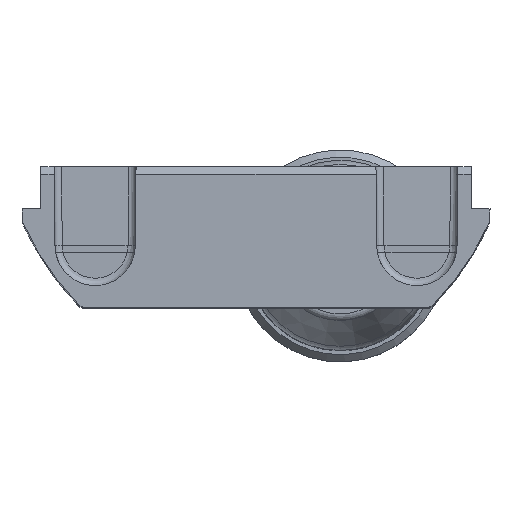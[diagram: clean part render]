
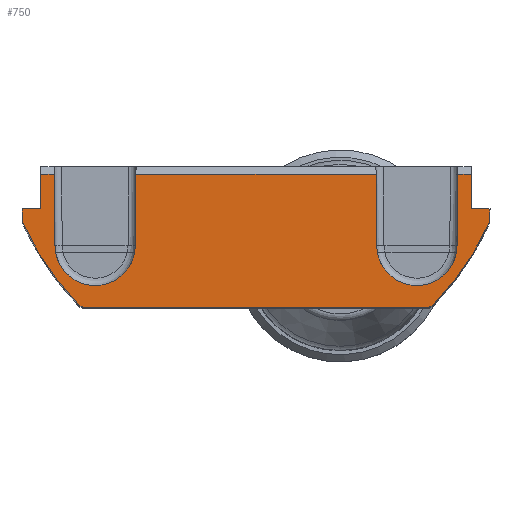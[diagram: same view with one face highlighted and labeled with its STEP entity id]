
A CAD part, top view. The second image highlights one B-rep face of the part: STEP entity #750.
In plain terms, the highlighted planar face has unit normal (0, 0, 1).
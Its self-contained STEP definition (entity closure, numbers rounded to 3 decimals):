
#750=ADVANCED_FACE('',(#1368),#1083,.T.);
#1083=PLANE('',#7497);
#1368=FACE_OUTER_BOUND('',#1736,.T.);
#1736=EDGE_LOOP('',(#3413,#3414,#3415,#3416,#3417,#3418,#3419,#3420,#3421,
#3422,#3423,#3424,#3425,#3426,#3427,#3428,#3429,#3430,#3431,#3432,#3433,
#3434));
#2053=CIRCLE('',#7286,0.5);
#2054=CIRCLE('',#7290,0.5);
#2055=CIRCLE('',#7294,0.5);
#2056=CIRCLE('',#7296,0.5);
#2057=CIRCLE('',#7318,2.75);
#2058=CIRCLE('',#7321,2.75);
#2103=CIRCLE('',#7490,20.);
#2104=CIRCLE('',#7494,20.);
#3413=ORIENTED_EDGE('',*,*,#5653,.F.);
#3414=ORIENTED_EDGE('',*,*,#5249,.T.);
#3415=ORIENTED_EDGE('',*,*,#5373,.F.);
#3416=ORIENTED_EDGE('',*,*,#5379,.F.);
#3417=ORIENTED_EDGE('',*,*,#5377,.F.);
#3418=ORIENTED_EDGE('',*,*,#5245,.T.);
#3419=ORIENTED_EDGE('',*,*,#5387,.T.);
#3420=ORIENTED_EDGE('',*,*,#5384,.T.);
#3421=ORIENTED_EDGE('',*,*,#5381,.T.);
#3422=ORIENTED_EDGE('',*,*,#5241,.T.);
#3423=ORIENTED_EDGE('',*,*,#5654,.F.);
#3424=ORIENTED_EDGE('',*,*,#5655,.F.);
#3425=ORIENTED_EDGE('',*,*,#5366,.F.);
#3426=ORIENTED_EDGE('',*,*,#5311,.T.);
#3427=ORIENTED_EDGE('',*,*,#5647,.T.);
#3428=ORIENTED_EDGE('',*,*,#5318,.T.);
#3429=ORIENTED_EDGE('',*,*,#5652,.F.);
#3430=ORIENTED_EDGE('',*,*,#5324,.T.);
#3431=ORIENTED_EDGE('',*,*,#5650,.T.);
#3432=ORIENTED_EDGE('',*,*,#5325,.T.);
#3433=ORIENTED_EDGE('',*,*,#5368,.F.);
#3434=ORIENTED_EDGE('',*,*,#5656,.F.);
#4519=VERTEX_POINT('',#10437);
#4521=VERTEX_POINT('',#10441);
#4523=VERTEX_POINT('',#10446);
#4525=VERTEX_POINT('',#10450);
#4527=VERTEX_POINT('',#10455);
#4529=VERTEX_POINT('',#10459);
#4570=VERTEX_POINT('',#10887);
#4571=VERTEX_POINT('',#10889);
#4574=VERTEX_POINT('',#10899);
#4575=VERTEX_POINT('',#10901);
#4578=VERTEX_POINT('',#10911);
#4579=VERTEX_POINT('',#10913);
#4580=VERTEX_POINT('',#10917);
#4581=VERTEX_POINT('',#10918);
#4617=VERTEX_POINT('',#11158);
#4618=VERTEX_POINT('',#11162);
#4620=VERTEX_POINT('',#11171);
#4621=VERTEX_POINT('',#11177);
#4622=VERTEX_POINT('',#11184);
#4623=VERTEX_POINT('',#11188);
#4775=VERTEX_POINT('',#11790);
#4776=VERTEX_POINT('',#11792);
#5241=EDGE_CURVE('',#4519,#4521,#6211,.T.);
#5245=EDGE_CURVE('',#4523,#4525,#6215,.T.);
#5249=EDGE_CURVE('',#4527,#4529,#6219,.T.);
#5311=EDGE_CURVE('',#4571,#4570,#2053,.T.);
#5318=EDGE_CURVE('',#4574,#4575,#2054,.T.);
#5324=EDGE_CURVE('',#4578,#4579,#2055,.T.);
#5325=EDGE_CURVE('',#4580,#4581,#2056,.T.);
#5366=EDGE_CURVE('',#4571,#4617,#6261,.T.);
#5368=EDGE_CURVE('',#4618,#4581,#6263,.T.);
#5373=EDGE_CURVE('',#4620,#4529,#6268,.T.);
#5377=EDGE_CURVE('',#4523,#4621,#6272,.T.);
#5379=EDGE_CURVE('',#4621,#4620,#2057,.T.);
#5381=EDGE_CURVE('',#4622,#4519,#6275,.T.);
#5384=EDGE_CURVE('',#4623,#4622,#2058,.T.);
#5387=EDGE_CURVE('',#4525,#4623,#6280,.T.);
#5647=EDGE_CURVE('',#4570,#4574,#2103,.T.);
#5650=EDGE_CURVE('',#4579,#4580,#2104,.T.);
#5652=EDGE_CURVE('',#4578,#4575,#6460,.T.);
#5653=EDGE_CURVE('',#4527,#4775,#6461,.T.);
#5654=EDGE_CURVE('',#4776,#4521,#6462,.T.);
#5655=EDGE_CURVE('',#4617,#4776,#6463,.T.);
#5656=EDGE_CURVE('',#4775,#4618,#6464,.T.);
#6211=LINE('',#10442,#6763);
#6215=LINE('',#10451,#6767);
#6219=LINE('',#10460,#6771);
#6261=LINE('',#11157,#6813);
#6263=LINE('',#11161,#6815);
#6268=LINE('',#11170,#6820);
#6272=LINE('',#11176,#6824);
#6275=LINE('',#11183,#6827);
#6280=LINE('',#11194,#6832);
#6460=LINE('',#11787,#7012);
#6461=LINE('',#11789,#7013);
#6462=LINE('',#11791,#7014);
#6463=LINE('',#11793,#7015);
#6464=LINE('',#11794,#7016);
#6763=VECTOR('',#8275,1.);
#6767=VECTOR('',#8281,1.);
#6771=VECTOR('',#8287,1.);
#6813=VECTOR('',#8481,1.);
#6815=VECTOR('',#8485,1.);
#6820=VECTOR('',#8494,1.);
#6824=VECTOR('',#8500,1.);
#6827=VECTOR('',#8509,1.);
#6832=VECTOR('',#8522,1.);
#7012=VECTOR('',#9046,1.);
#7013=VECTOR('',#9049,1.);
#7014=VECTOR('',#9050,1.);
#7015=VECTOR('',#9051,1.);
#7016=VECTOR('',#9052,1.);
#7286=AXIS2_PLACEMENT_3D('',#10888,#8391,#8392);
#7290=AXIS2_PLACEMENT_3D('',#10902,#8404,#8405);
#7294=AXIS2_PLACEMENT_3D('',#10914,#8416,#8417);
#7296=AXIS2_PLACEMENT_3D('',#10916,#8420,#8421);
#7318=AXIS2_PLACEMENT_3D('',#11180,#8504,#8505);
#7321=AXIS2_PLACEMENT_3D('',#11189,#8514,#8515);
#7490=AXIS2_PLACEMENT_3D('',#11780,#9033,#9034);
#7494=AXIS2_PLACEMENT_3D('',#11784,#9041,#9042);
#7497=AXIS2_PLACEMENT_3D('',#11795,#9053,#9054);
#8275=DIRECTION('',(-1.,0.,0.));
#8281=DIRECTION('',(-1.,0.,0.));
#8287=DIRECTION('',(-1.,0.,0.));
#8391=DIRECTION('',(0.,0.,1.));
#8392=DIRECTION('',(1.,0.,0.));
#8404=DIRECTION('',(0.,0.,1.));
#8405=DIRECTION('',(1.,0.,0.));
#8416=DIRECTION('',(0.,0.,1.));
#8417=DIRECTION('',(1.,0.,0.));
#8420=DIRECTION('',(0.,0.,1.));
#8421=DIRECTION('',(1.,0.,0.));
#8481=DIRECTION('',(-0.009,1.,0.));
#8485=DIRECTION('',(-0.009,-1.,0.));
#8494=DIRECTION('',(0.009,1.,0.));
#8500=DIRECTION('',(0.009,-1.,0.));
#8504=DIRECTION('',(0.,0.,1.));
#8505=DIRECTION('',(1.,0.,0.));
#8509=DIRECTION('',(-0.009,1.,0.));
#8514=DIRECTION('',(0.,0.,-1.));
#8515=DIRECTION('',(1.,0.,0.));
#8522=DIRECTION('',(-0.009,-1.,0.));
#9033=DIRECTION('',(0.,0.,1.));
#9034=DIRECTION('',(-1.,0.,0.));
#9041=DIRECTION('',(0.,0.,1.));
#9042=DIRECTION('',(1.,0.,0.));
#9046=DIRECTION('',(-1.,0.,0.));
#9049=DIRECTION('',(0.009,-1.,0.));
#9050=DIRECTION('',(0.009,1.,0.));
#9051=DIRECTION('',(1.,0.,0.));
#9052=DIRECTION('',(1.,0.,0.));
#9053=DIRECTION('',(0.,0.,1.));
#9054=DIRECTION('',(1.,0.,0.));
#10437=CARTESIAN_POINT('',(-13.793,9.125,-3.625));
#10441=CARTESIAN_POINT('',(-14.729,9.125,-3.625));
#10442=CARTESIAN_POINT('',(-2.263,9.125,-3.625));
#10446=CARTESIAN_POINT('',(8.207,9.125,-3.625));
#10450=CARTESIAN_POINT('',(-8.207,9.125,-3.625));
#10451=CARTESIAN_POINT('',(-2.263,9.125,-3.625));
#10455=CARTESIAN_POINT('',(14.729,9.125,-3.625));
#10459=CARTESIAN_POINT('',(13.793,9.125,-3.625));
#10460=CARTESIAN_POINT('',(-2.263,9.125,-3.625));
#10887=CARTESIAN_POINT('',(-15.949,5.805,-3.625));
#10888=CARTESIAN_POINT('',(-15.494,6.011,-3.625));
#10889=CARTESIAN_POINT('',(-15.994,6.007,-3.625));
#10899=CARTESIAN_POINT('',(-12.124,0.178,-3.625));
#10901=CARTESIAN_POINT('',(-11.764,0.025,-3.625));
#10902=CARTESIAN_POINT('',(-11.764,0.525,-3.625));
#10911=CARTESIAN_POINT('',(11.764,0.025,-3.625));
#10913=CARTESIAN_POINT('',(12.124,0.178,-3.625));
#10914=CARTESIAN_POINT('',(11.764,0.525,-3.625));
#10916=CARTESIAN_POINT('',(15.494,6.011,-3.625));
#10917=CARTESIAN_POINT('',(15.949,5.805,-3.625));
#10918=CARTESIAN_POINT('',(15.994,6.007,-3.625));
#11157=CARTESIAN_POINT('',(-16.063,13.951,-3.625));
#11158=CARTESIAN_POINT('',(-16.,6.75,-3.625));
#11161=CARTESIAN_POINT('',(16.062,13.911,-3.625));
#11162=CARTESIAN_POINT('',(16.,6.75,-3.625));
#11170=CARTESIAN_POINT('',(13.75,4.25,-3.625));
#11171=CARTESIAN_POINT('',(13.75,4.25,-3.625));
#11176=CARTESIAN_POINT('',(8.25,4.25,-3.625));
#11177=CARTESIAN_POINT('',(8.25,4.25,-3.625));
#11180=CARTESIAN_POINT('',(11.,4.25,-3.625));
#11183=CARTESIAN_POINT('',(-13.75,4.25,-3.625));
#11184=CARTESIAN_POINT('',(-13.75,4.25,-3.625));
#11188=CARTESIAN_POINT('',(-8.25,4.25,-3.625));
#11189=CARTESIAN_POINT('',(-11.,4.25,-3.625));
#11194=CARTESIAN_POINT('',(-8.25,4.25,-3.625));
#11780=CARTESIAN_POINT('',(2.263,14.071,-3.625));
#11784=CARTESIAN_POINT('',(-2.263,14.071,-3.625));
#11787=CARTESIAN_POINT('',(-11.95,0.025,-3.625));
#11789=CARTESIAN_POINT('',(14.685,14.219,-3.625));
#11790=CARTESIAN_POINT('',(14.75,6.75,-3.625));
#11791=CARTESIAN_POINT('',(-14.685,14.18,-3.625));
#11792=CARTESIAN_POINT('',(-14.75,6.75,-3.625));
#11793=CARTESIAN_POINT('',(-2.263,6.75,-3.625));
#11794=CARTESIAN_POINT('',(-2.263,6.75,-3.625));
#11795=CARTESIAN_POINT('',(-2.263,14.071,-3.625));
